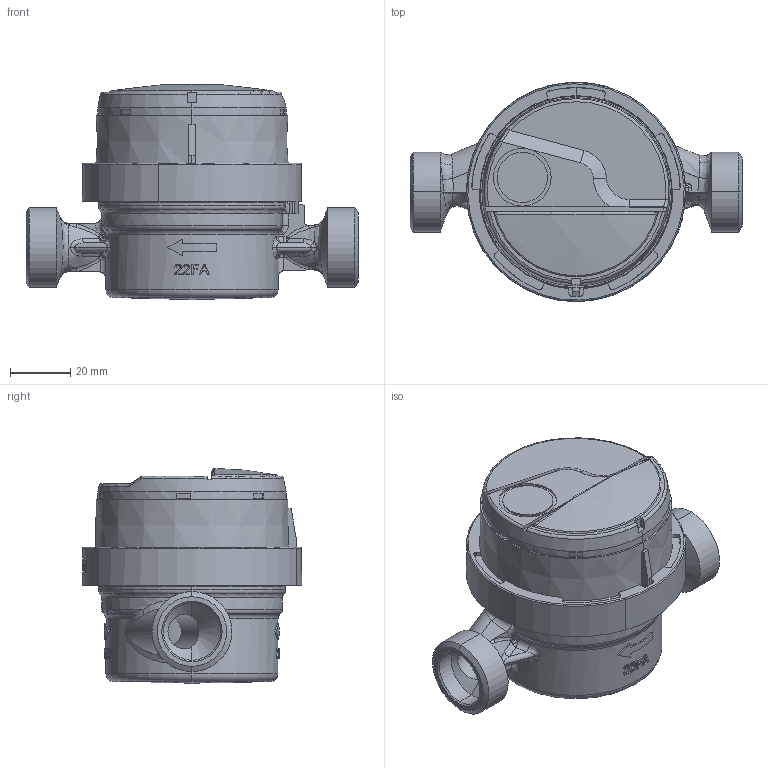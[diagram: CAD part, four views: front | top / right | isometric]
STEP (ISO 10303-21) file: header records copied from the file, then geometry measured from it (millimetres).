
FILE_DESCRIPTION (( 'STEP AP214' ), '1' );
FILE_NAME ('JS-1.6-02.STEP', '2025-05-23T10:46:56', ( '' ), ( '' ), 'SwSTEP 2.0', 'SolidWorks 2019', '' );
FILE_SCHEMA (( 'AUTOMOTIVE_DESIGN' ));
Length unit declared in the file: millimetre
Products named in the file (1): JS-1.6-02
Bounding box: 110 x 72.69 x 71.3 mm (x, y, z)
Volume: 211499.8 mm3; surface area: 41049.4 mm2
Topology: 3 solids, 8 shells, 885 faces, 2357 edges, 1501 vertices
Faces by surface type: plane 389, bspline 222, cylinder 159, cone 77, torus 28, sphere 10
Entity records: 45878 total; most frequent: CARTESIAN_POINT 16026, ORIENTED_EDGE 4664, DIRECTION 3553, EDGE_CURVE 2332, VERTEX_POINT 1501, AXIS2_PLACEMENT_3D 1255, VECTOR 1043, LINE 1043
